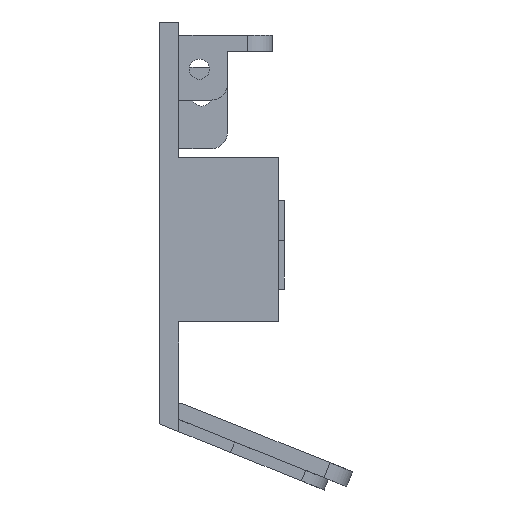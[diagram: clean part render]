
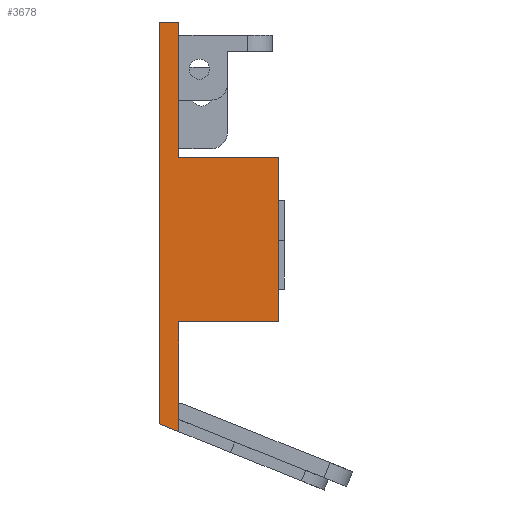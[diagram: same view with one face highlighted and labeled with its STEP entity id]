
A CAD part, left-side view. The second image highlights one B-rep face of the part: STEP entity #3678.
In plain terms, the highlighted planar face has unit normal (-1, 0, 0).
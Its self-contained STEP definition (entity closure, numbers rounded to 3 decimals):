
#231=PLANE('',#3872);
#413=FACE_OUTER_BOUND('',#619,.T.);
#619=EDGE_LOOP('',(#3356,#3357,#3358,#3359,#3360,#3361,#3362,#3363));
#689=LINE('',#4874,#1142);
#697=LINE('',#4890,#1150);
#731=LINE('',#4961,#1184);
#1059=LINE('',#6071,#1512);
#1060=LINE('',#6075,#1513);
#1061=LINE('',#6076,#1514);
#1062=LINE('',#6077,#1515);
#1063=LINE('',#6078,#1516);
#1142=VECTOR('',#3998,10.);
#1150=VECTOR('',#4006,10.);
#1184=VECTOR('',#4046,10.);
#1512=VECTOR('',#4648,10.);
#1513=VECTOR('',#4651,10.);
#1514=VECTOR('',#4652,10.);
#1515=VECTOR('',#4653,10.);
#1516=VECTOR('',#4654,10.);
#1624=VERTEX_POINT('',#4871);
#1625=VERTEX_POINT('',#4873);
#1632=VERTEX_POINT('',#4887);
#1633=VERTEX_POINT('',#4889);
#1666=VERTEX_POINT('',#4958);
#1667=VERTEX_POINT('',#4960);
#1913=VERTEX_POINT('',#6073);
#1914=VERTEX_POINT('',#6074);
#1983=EDGE_CURVE('',#1624,#1625,#689,.T.);
#1991=EDGE_CURVE('',#1632,#1633,#697,.T.);
#2027=EDGE_CURVE('',#1666,#1667,#731,.T.);
#2407=EDGE_CURVE('',#1633,#1666,#1059,.T.);
#2408=EDGE_CURVE('',#1913,#1914,#1060,.T.);
#2409=EDGE_CURVE('',#1914,#1625,#1061,.T.);
#2410=EDGE_CURVE('',#1667,#1624,#1062,.T.);
#2411=EDGE_CURVE('',#1632,#1913,#1063,.T.);
#3356=ORIENTED_EDGE('',*,*,#2408,.T.);
#3357=ORIENTED_EDGE('',*,*,#2409,.T.);
#3358=ORIENTED_EDGE('',*,*,#1983,.F.);
#3359=ORIENTED_EDGE('',*,*,#2410,.F.);
#3360=ORIENTED_EDGE('',*,*,#2027,.F.);
#3361=ORIENTED_EDGE('',*,*,#2407,.F.);
#3362=ORIENTED_EDGE('',*,*,#1991,.F.);
#3363=ORIENTED_EDGE('',*,*,#2411,.T.);
#3678=ADVANCED_FACE('',(#413),#231,.T.);
#3872=AXIS2_PLACEMENT_3D('',#6072,#4649,#4650);
#3998=DIRECTION('',(0.,0.,-1.));
#4006=DIRECTION('',(0.,0.,-1.));
#4046=DIRECTION('',(0.,0.,1.));
#4648=DIRECTION('',(0.,0.928,0.372));
#4649=DIRECTION('center_axis',(-1.,0.,0.));
#4650=DIRECTION('ref_axis',(0.,0.,
1.));
#4651=DIRECTION('',(0.,0.,1.));
#4652=DIRECTION('',(0.,1.,0.));
#4653=DIRECTION('',(0.,-1.,0.));
#4654=DIRECTION('',(0.,-1.,0.));
#4871=CARTESIAN_POINT('',(-22.,28.658,46.995));
#4873=CARTESIAN_POINT('',(-22.,28.658,30.292));
#4874=CARTESIAN_POINT('',(-22.,28.658,47.395));
#4887=CARTESIAN_POINT('',(-22.,28.658,9.997));
#4889=CARTESIAN_POINT('',(-22.,28.658,-3.561));
#4890=CARTESIAN_POINT('',(-22.,28.658,47.395));
#4958=CARTESIAN_POINT('',(-22.,31.058,-2.598));
#4960=CARTESIAN_POINT('',(-22.,31.058,46.995));
#4961=CARTESIAN_POINT('',(-22.,31.058,9.847));
#6071=CARTESIAN_POINT('',(-22.,23.925,-5.461));
#6072=CARTESIAN_POINT('Origin',(-22.,14.472,27.832));
#6073=CARTESIAN_POINT('',(-22.,16.312,9.997));
#6074=CARTESIAN_POINT('',(-22.,16.312,30.292));
#6075=CARTESIAN_POINT('',(-22.,16.312,26.582));
#6076=CARTESIAN_POINT('',(-22.,31.658,30.292));
#6077=CARTESIAN_POINT('',(-22.,33.158,46.995));
#6078=CARTESIAN_POINT('',(-22.,25.465,9.997));
